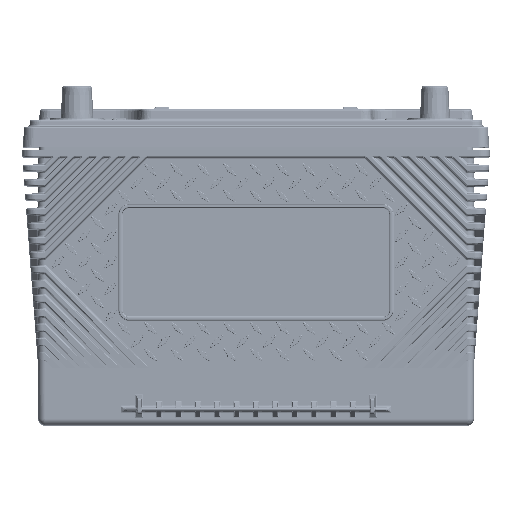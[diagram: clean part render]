
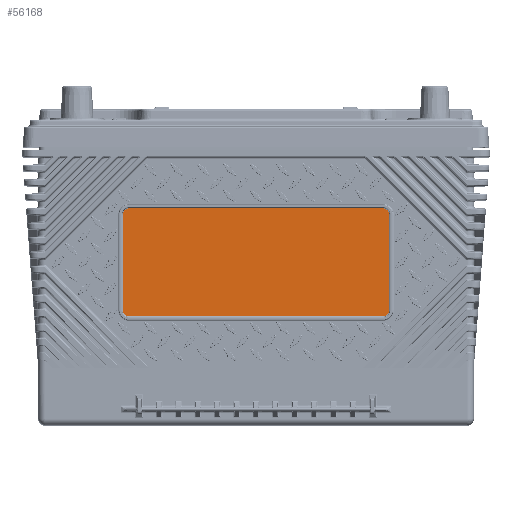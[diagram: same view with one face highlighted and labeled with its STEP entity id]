
A CAD part, top view. The second image highlights one B-rep face of the part: STEP entity #56168.
In plain terms, the highlighted planar face has unit normal (0, -0.001, 1).
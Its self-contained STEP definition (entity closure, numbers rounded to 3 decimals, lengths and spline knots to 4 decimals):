
#7001 = CARTESIAN_POINT ( 'NONE',  ( -5.034, 5.0135, 3.1338 ) ) ;
#20839 = DIRECTION ( 'NONE',  ( 0., -0.001, 1. ) ) ;
#22495 = CARTESIAN_POINT ( 'NONE',  ( -3.078, 4.872, 3.1336 ) ) ;
#33900 = CIRCLE ( 'NONE', #417152, 0.1415 ) ;
#46528 = EDGE_CURVE ( 'NONE', #212446, #58881, #397264, .T. ) ;
#54829 = CARTESIAN_POINT ( 'NONE',  ( 3.078, 0., 3.1285 ) ) ;
#56168 = ADVANCED_FACE ( 'NONE', ( #474603 ), #62064, .T. ) ;
#56385 = CARTESIAN_POINT ( 'NONE',  ( -2.9365, 5.0135, 3.1338 ) ) ;
#57365 = AXIS2_PLACEMENT_3D ( 'NONE', #351990, #82006, #469411 ) ;
#58881 = VERTEX_POINT ( 'NONE', #196867 ) ;
#62064 = PLANE ( 'NONE',  #181871 ) ;
#68294 = EDGE_CURVE ( 'NONE', #401287, #238225, #145161, .T. ) ;
#70125 = ORIENTED_EDGE ( 'NONE', *, *, #308132, .T. ) ;
#71361 = AXIS2_PLACEMENT_3D ( 'NONE', #473337, #278442, #130876 ) ;
#78308 = VECTOR ( 'NONE', #97954, 39.3701 ) ;
#82006 = DIRECTION ( 'NONE',  ( 0., -0.001, 1. ) ) ;
#94253 = DIRECTION ( 'NONE',  ( 0., -0.001, 1. ) ) ;
#97326 = ORIENTED_EDGE ( 'NONE', *, *, #149827, .T. ) ;
#97954 = DIRECTION ( 'NONE',  ( 0., -1., -0.001 ) ) ;
#109369 = VERTEX_POINT ( 'NONE', #136150 ) ;
#112097 = LINE ( 'NONE', #7001, #139505 ) ;
#116740 = VERTEX_POINT ( 'NONE', #144864 ) ;
#128792 = ORIENTED_EDGE ( 'NONE', *, *, #201260, .T. ) ;
#130876 = DIRECTION ( 'NONE',  ( 0., -1., -0.001 ) ) ;
#135532 = CARTESIAN_POINT ( 'NONE',  ( -3.078, 0., 3.1285 ) ) ;
#136150 = CARTESIAN_POINT ( 'NONE',  ( 2.9365, 5.0135, 3.1338 ) ) ;
#139505 = VECTOR ( 'NONE', #152113, 39.3701 ) ;
#141364 = VERTEX_POINT ( 'NONE', #375922 ) ;
#144864 = CARTESIAN_POINT ( 'NONE',  ( -3.078, 2.664, 3.1313 ) ) ;
#145161 = CIRCLE ( 'NONE', #57365, 0.1415 ) ;
#149827 = EDGE_CURVE ( 'NONE', #109369, #401287, #112097, .T. ) ;
#152113 = DIRECTION ( 'NONE',  ( -1., 0., 0. ) ) ;
#171942 = ORIENTED_EDGE ( 'NONE', *, *, #192600, .T. ) ;
#175463 = LINE ( 'NONE', #135532, #78308 ) ;
#180667 = DIRECTION ( 'NONE',  ( 0., -1., -0.001 ) ) ;
#181871 = AXIS2_PLACEMENT_3D ( 'NONE', #291981, #244629, #209539 ) ;
#184318 = CIRCLE ( 'NONE', #463729, 0.1415 ) ;
#192600 = EDGE_CURVE ( 'NONE', #141364, #212446, #222938, .T. ) ;
#196867 = CARTESIAN_POINT ( 'NONE',  ( 3.078, 4.872, 3.1336 ) ) ;
#199837 = DIRECTION ( 'NONE',  ( 0., 1., 0.001 ) ) ;
#201260 = EDGE_CURVE ( 'NONE', #116740, #217409, #33900, .T. ) ;
#209539 = DIRECTION ( 'NONE',  ( 0., -1., -0.001 ) ) ;
#212446 = VERTEX_POINT ( 'NONE', #283599 ) ;
#217409 = VERTEX_POINT ( 'NONE', #354053 ) ;
#222938 = CIRCLE ( 'NONE', #71361, 0.1415 ) ;
#238225 = VERTEX_POINT ( 'NONE', #22495 ) ;
#239365 = EDGE_CURVE ( 'NONE', #58881, #109369, #184318, .T. ) ;
#239453 = CARTESIAN_POINT ( 'NONE',  ( -5.034, 2.5225, 3.1311 ) ) ;
#244629 = DIRECTION ( 'NONE',  ( 0., -0.001, 1. ) ) ;
#246817 = VECTOR ( 'NONE', #434401, 39.3701 ) ;
#278442 = DIRECTION ( 'NONE',  ( 0., -0.001, 1. ) ) ;
#283599 = CARTESIAN_POINT ( 'NONE',  ( 3.078, 2.664, 3.1313 ) ) ;
#291981 = CARTESIAN_POINT ( 'NONE',  ( -5.034, 0., 3.1285 ) ) ;
#298061 = CARTESIAN_POINT ( 'NONE',  ( 2.9365, 4.872, 3.1336 ) ) ;
#308132 = EDGE_CURVE ( 'NONE', #217409, #141364, #389526, .T. ) ;
#351990 = CARTESIAN_POINT ( 'NONE',  ( -2.9365, 4.872, 3.1336 ) ) ;
#354053 = CARTESIAN_POINT ( 'NONE',  ( -2.9365, 2.5225, 3.1311 ) ) ;
#357839 = ORIENTED_EDGE ( 'NONE', *, *, #239365, .T. ) ;
#371949 = ORIENTED_EDGE ( 'NONE', *, *, #484057, .T. ) ;
#375922 = CARTESIAN_POINT ( 'NONE',  ( 2.9365, 2.5225, 3.1311 ) ) ;
#382517 = ORIENTED_EDGE ( 'NONE', *, *, #46528, .T. ) ;
#389526 = LINE ( 'NONE', #239453, #246817 ) ;
#397264 = LINE ( 'NONE', #54829, #440631 ) ;
#401287 = VERTEX_POINT ( 'NONE', #56385 ) ;
#417152 = AXIS2_PLACEMENT_3D ( 'NONE', #436759, #94253, #479144 ) ;
#434401 = DIRECTION ( 'NONE',  ( 1., 0., 0. ) ) ;
#436759 = CARTESIAN_POINT ( 'NONE',  ( -2.9365, 2.664, 3.1313 ) ) ;
#440631 = VECTOR ( 'NONE', #199837, 39.3701 ) ;
#456697 = ORIENTED_EDGE ( 'NONE', *, *, #68294, .T. ) ;
#463729 = AXIS2_PLACEMENT_3D ( 'NONE', #298061, #20839, #180667 ) ;
#469411 = DIRECTION ( 'NONE',  ( 0., -1., -0.001 ) ) ;
#473337 = CARTESIAN_POINT ( 'NONE',  ( 2.9365, 2.664, 3.1313 ) ) ;
#474603 = FACE_OUTER_BOUND ( 'NONE', #492791, .T. ) ;
#479144 = DIRECTION ( 'NONE',  ( 0., -1., -0.001 ) ) ;
#484057 = EDGE_CURVE ( 'NONE', #238225, #116740, #175463, .T. ) ;
#492791 = EDGE_LOOP ( 'NONE', ( #371949, #128792, #70125, #171942, #382517, #357839, #97326, #456697 ) ) ;
